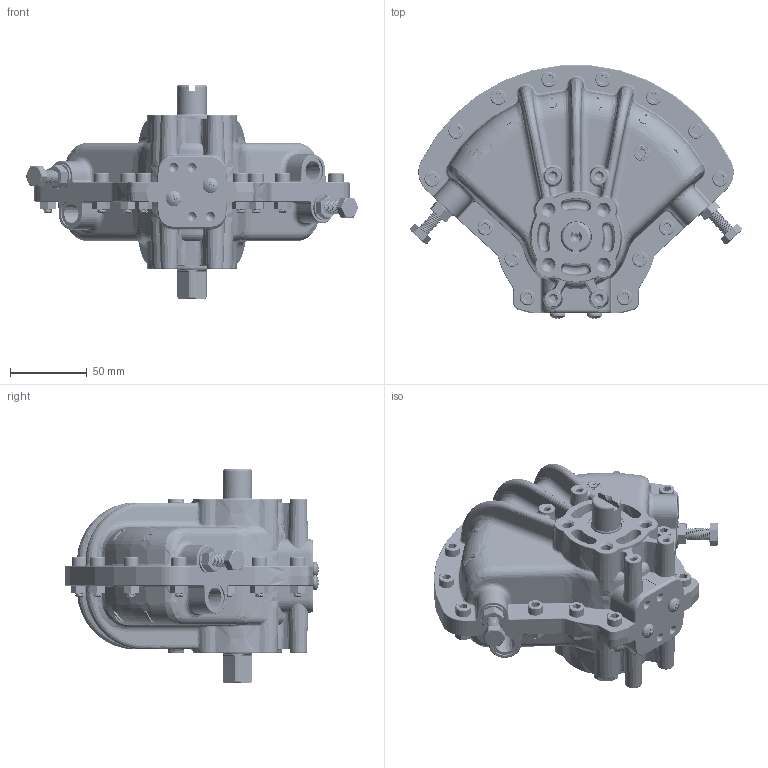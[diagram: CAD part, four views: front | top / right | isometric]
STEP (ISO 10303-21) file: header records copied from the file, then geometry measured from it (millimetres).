
FILE_DESCRIPTION( ( 'Unknown' ), '1' );
FILE_NAME( 'M:/Dallas-Ridec/Archive/10/Assemblies/Main assemblies/DA, SR Actuator assembly/D000000202.stp', 'Unknown', ( 'Unknown' ), ( 'Unknown' ), 'PSStep 17.0.49', 'Unknown', ' ' );
FILE_SCHEMA( ( 'AUTOMOTIVE_DESIGN { 1 0 10303 214 1 1 1 1 }' ) );
Length unit declared in the file: millimetre
Products named in the file (41): 1; 2; 3; 4; 5; 93635A340; 90116A246; 94150A355; 6; 7; 92290A326; 94150A345
Bounding box: 216.89 x 165.6 x 140.2 mm (x, y, z)
Surface area: 160351.8 mm2 (no closed solid volume)
Topology: 0 solids, 2295 shells, 2295 faces, 14990 edges, 14677 vertices
Faces by surface type: bspline 646, cone 609, plane 503, cylinder 310, torus 195, extrusion 22, sphere 10
Full cylindrical faces by diameter (mm): 4.134 x12, 4.917 x1, 6.411 x8, 6.964 x26, 8 x26, 10 x16, 11.862 x2, 16 x2, 16.993 x4, 19.18 x2, 19.98 x2, 23.546 x2
Entity records: 281098 total; most frequent: CARTESIAN_POINT 181074, VERTEX_POINT 14545, ORIENTED_EDGE 14532, EDGE_CURVE 14532, DIRECTION 11735, AXIS2_PLACEMENT_3D 5071, B_SPLINE_CURVE_WITH_KNOTS 4624, CIRCLE 3275
